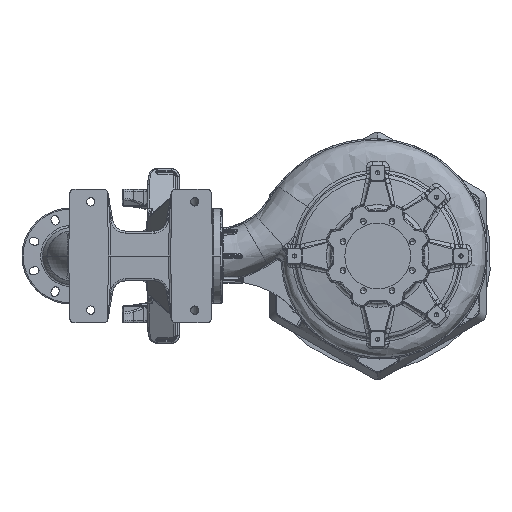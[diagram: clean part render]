
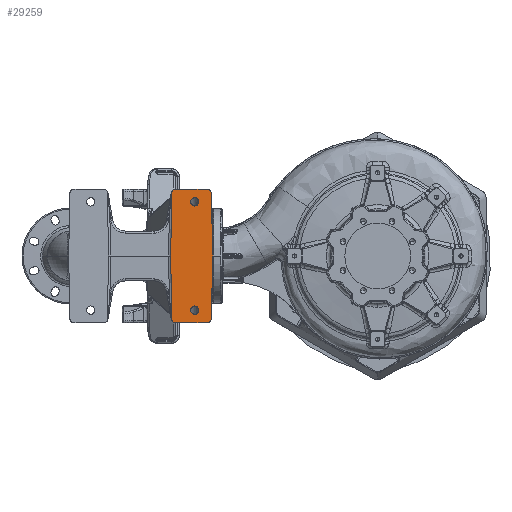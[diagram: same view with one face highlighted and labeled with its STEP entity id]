
A CAD part, front view. The second image highlights one B-rep face of the part: STEP entity #29259.
In plain terms, the highlighted planar face has unit normal (0, -1, 0).
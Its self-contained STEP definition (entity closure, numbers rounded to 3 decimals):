
#2444 = VERTEX_POINT ( 'NONE', #171185 ) ;
#3555 = EDGE_CURVE ( 'NONE', #2444, #217382, #237915, .T. ) ;
#5731 = CARTESIAN_POINT ( 'NONE',  ( -439.5, -572.5, -140. ) ) ;
#7683 = DIRECTION ( 'NONE',  ( 0.017, 0., 1. ) ) ;
#9292 = EDGE_CURVE ( 'NONE', #67527, #254931, #229558, .T. ) ;
#9793 = ORIENTED_EDGE ( 'NONE', *, *, #11243, .T. ) ;
#10259 = LINE ( 'NONE', #275625, #122002 ) ;
#11212 = CARTESIAN_POINT ( 'NONE',  ( -486.109, -572.5, 150. ) ) ;
#11243 = EDGE_CURVE ( 'NONE', #60336, #257726, #217203, .T. ) ;
#11277 = CARTESIAN_POINT ( 'NONE',  ( -409.327, -572.5, -160. ) ) ;
#12725 = CARTESIAN_POINT ( 'NONE',  ( -489.612, -572.5, -153.568 ) ) ;
#13086 = DIRECTION ( 'NONE',  ( 0., -1., 0. ) ) ;
#13527 = DIRECTION ( 'NONE',  ( -1., 0., 0. ) ) ;
#17008 = AXIS2_PLACEMENT_3D ( 'NONE', #199001, #65488, #221469 ) ;
#19281 = EDGE_CURVE ( 'NONE', #45200, #90677, #83656, .T. ) ;
#20380 = EDGE_LOOP ( 'NONE', ( #58994, #210551, #136623, #286247, #231640, #9793, #236796, #233446, #22874, #177484, #32373, #70417 ) ) ;
#22874 = ORIENTED_EDGE ( 'NONE', *, *, #168721, .T. ) ;
#23560 = AXIS2_PLACEMENT_3D ( 'NONE', #80633, #236534, #103006 ) ;
#28393 = CARTESIAN_POINT ( 'NONE',  ( -439.5, -572.5, -130. ) ) ;
#29259 = ADVANCED_FACE ( 'NONE', ( #279421, #70284, #160881 ), #180950, .F. ) ;
#31156 = DIRECTION ( 'NONE',  ( 1., 0., 0. ) ) ;
#32373 = ORIENTED_EDGE ( 'NONE', *, *, #19281, .T. ) ;
#33660 = DIRECTION ( 'NONE',  ( 0., 0., 1. ) ) ;
#34235 = CARTESIAN_POINT ( 'NONE',  ( -439.5, -572.5, -130. ) ) ;
#35191 = DIRECTION ( 'NONE',  ( 0., 0., 1. ) ) ;
#39275 = VECTOR ( 'NONE', #7683, 1000. ) ;
#42751 = EDGE_CURVE ( 'NONE', #254931, #202536, #68276, .T. ) ;
#45200 = VERTEX_POINT ( 'NONE', #110560 ) ;
#46568 = AXIS2_PLACEMENT_3D ( 'NONE', #183496, #50004, #205961 ) ;
#50004 = DIRECTION ( 'NONE',  ( 0., -1., 0. ) ) ;
#50260 = EDGE_CURVE ( 'NONE', #217382, #2444, #267384, .T. ) ;
#50888 = DIRECTION ( 'NONE',  ( 0., 0., -1. ) ) ;
#56760 = DIRECTION ( 'NONE',  ( 0., 0., -1. ) ) ;
#58994 = ORIENTED_EDGE ( 'NONE', *, *, #284434, .T. ) ;
#59357 = CARTESIAN_POINT ( 'NONE',  ( -409.327, -572.5, 160. ) ) ;
#60336 = VERTEX_POINT ( 'NONE', #286744 ) ;
#60824 = CARTESIAN_POINT ( 'NONE',  ( -494.611, -572.5, -153.656 ) ) ;
#62819 = EDGE_CURVE ( 'NONE', #202536, #151445, #218196, .T. ) ;
#65488 = DIRECTION ( 'NONE',  ( 0., -1., 0. ) ) ;
#67527 = VERTEX_POINT ( 'NONE', #60824 ) ;
#68276 = CIRCLE ( 'NONE', #199367, 10. ) ;
#68553 = AXIS2_PLACEMENT_3D ( 'NONE', #146772, #13086, #169196 ) ;
#70049 = AXIS2_PLACEMENT_3D ( 'NONE', #11212, #167348, #33660 ) ;
#70284 = FACE_OUTER_BOUND ( 'NONE', #20380, .T. ) ;
#70417 = ORIENTED_EDGE ( 'NONE', *, *, #239277, .T. ) ;
#74124 = CARTESIAN_POINT ( 'NONE',  ( -409.327, -572.5, 150. ) ) ;
#76689 = CARTESIAN_POINT ( 'NONE',  ( -396.707, -572.5, 0. ) ) ;
#79265 = DIRECTION ( 'NONE',  ( -0.017, 0., -1. ) ) ;
#80633 = CARTESIAN_POINT ( 'NONE',  ( -409.327, -572.5, -150. ) ) ;
#83656 = CIRCLE ( 'NONE', #68553, 5. ) ;
#85410 = LINE ( 'NONE', #147207, #196943 ) ;
#88173 = AXIS2_PLACEMENT_3D ( 'NONE', #119506, #275441, #141932 ) ;
#90677 = VERTEX_POINT ( 'NONE', #258414 ) ;
#96474 = DIRECTION ( 'NONE',  ( 0., 0., 1. ) ) ;
#97521 = CARTESIAN_POINT ( 'NONE',  ( -399.5, -572.5, -160. ) ) ;
#99587 = DIRECTION ( 'NONE',  ( -0.017, 0., 1. ) ) ;
#100538 = AXIS2_PLACEMENT_3D ( 'NONE', #34235, #190271, #56760 ) ;
#100557 = CARTESIAN_POINT ( 'NONE',  ( -396.707, -572.5, 0. ) ) ;
#103006 = DIRECTION ( 'NONE',  ( 0., 0., 1. ) ) ;
#109183 = ORIENTED_EDGE ( 'NONE', *, *, #207628, .F. ) ;
#110560 = CARTESIAN_POINT ( 'NONE',  ( -493.114, -572.5, 157.137 ) ) ;
#110699 = CARTESIAN_POINT ( 'NONE',  ( -486.109, -572.5, 160. ) ) ;
#114498 = CARTESIAN_POINT ( 'NONE',  ( -399.328, -572.5, 150.175 ) ) ;
#118656 = CARTESIAN_POINT ( 'NONE',  ( -497.293, -572.5, 0. ) ) ;
#118902 = CARTESIAN_POINT ( 'NONE',  ( -399.5, -572.5, -160. ) ) ;
#119506 = CARTESIAN_POINT ( 'NONE',  ( -500.086, -572.5, -160. ) ) ;
#119695 = DIRECTION ( 'NONE',  ( 0.017, 0., -1. ) ) ;
#122002 = VECTOR ( 'NONE', #119695, 1000. ) ;
#124389 = DIRECTION ( 'NONE',  ( 0., -1., 0. ) ) ;
#124821 = CIRCLE ( 'NONE', #70049, 10. ) ;
#132548 = LINE ( 'NONE', #212774, #251099 ) ;
#135237 = EDGE_CURVE ( 'NONE', #172162, #261186, #253215, .T. ) ;
#136623 = ORIENTED_EDGE ( 'NONE', *, *, #42751, .T. ) ;
#136694 = CARTESIAN_POINT ( 'NONE',  ( -439.5, -572.5, -120. ) ) ;
#136990 = EDGE_CURVE ( 'NONE', #151445, #60336, #260528, .T. ) ;
#139377 = CARTESIAN_POINT ( 'NONE',  ( -439.5, -572.5, 140. ) ) ;
#141932 = DIRECTION ( 'NONE',  ( 0., 0., 1. ) ) ;
#143222 = ORIENTED_EDGE ( 'NONE', *, *, #135237, .F. ) ;
#146772 = CARTESIAN_POINT ( 'NONE',  ( -489.612, -572.5, 153.568 ) ) ;
#147207 = CARTESIAN_POINT ( 'NONE',  ( -399.5, -572.5, 160. ) ) ;
#151445 = VERTEX_POINT ( 'NONE', #11277 ) ;
#156643 = ORIENTED_EDGE ( 'NONE', *, *, #3555, .F. ) ;
#157060 = CARTESIAN_POINT ( 'NONE',  ( -493.114, -572.5, -157.137 ) ) ;
#157636 = VERTEX_POINT ( 'NONE', #118656 ) ;
#158095 = VERTEX_POINT ( 'NONE', #114498 ) ;
#158909 = VECTOR ( 'NONE', #31156, 1000. ) ;
#158954 = LINE ( 'NONE', #100557, #277487 ) ;
#160881 = FACE_BOUND ( 'NONE', #223873, .T. ) ;
#167348 = DIRECTION ( 'NONE',  ( 0., -1., 0. ) ) ;
#168721 = EDGE_CURVE ( 'NONE', #219420, #210201, #85410, .T. ) ;
#168840 = DIRECTION ( 'NONE',  ( 0., -1., 0. ) ) ;
#169196 = DIRECTION ( 'NONE',  ( 0., 0., 1. ) ) ;
#171185 = CARTESIAN_POINT ( 'NONE',  ( -439.5, -572.5, 120. ) ) ;
#172162 = VERTEX_POINT ( 'NONE', #136694 ) ;
#176357 = CARTESIAN_POINT ( 'NONE',  ( -486.109, -572.5, -160. ) ) ;
#177484 = ORIENTED_EDGE ( 'NONE', *, *, #185928, .T. ) ;
#180950 = PLANE ( 'NONE',  #88173 ) ;
#183496 = CARTESIAN_POINT ( 'NONE',  ( -439.5, -572.5, 130. ) ) ;
#184412 = DIRECTION ( 'NONE',  ( 0., -1., 0. ) ) ;
#185928 = EDGE_CURVE ( 'NONE', #210201, #45200, #124821, .T. ) ;
#188218 = AXIS2_PLACEMENT_3D ( 'NONE', #74124, #230089, #96474 ) ;
#190271 = DIRECTION ( 'NONE',  ( 0., -1., 0. ) ) ;
#196943 = VECTOR ( 'NONE', #13527, 1000. ) ;
#197264 = AXIS2_PLACEMENT_3D ( 'NONE', #28393, #184412, #50888 ) ;
#199001 = CARTESIAN_POINT ( 'NONE',  ( -439.5, -572.5, 130. ) ) ;
#199367 = AXIS2_PLACEMENT_3D ( 'NONE', #257909, #124389, #280320 ) ;
#202536 = VERTEX_POINT ( 'NONE', #176357 ) ;
#204705 = CIRCLE ( 'NONE', #100538, 10. ) ;
#205961 = DIRECTION ( 'NONE',  ( 0., 0., -1. ) ) ;
#207628 = EDGE_CURVE ( 'NONE', #261186, #172162, #204705, .T. ) ;
#209139 = EDGE_CURVE ( 'NONE', #257726, #158095, #158954, .T. ) ;
#210201 = VERTEX_POINT ( 'NONE', #110699 ) ;
#210551 = ORIENTED_EDGE ( 'NONE', *, *, #9292, .T. ) ;
#212774 = CARTESIAN_POINT ( 'NONE',  ( -494.5, -572.5, 160. ) ) ;
#217203 = LINE ( 'NONE', #118902, #39275 ) ;
#217382 = VERTEX_POINT ( 'NONE', #139377 ) ;
#218196 = LINE ( 'NONE', #97521, #158909 ) ;
#219420 = VERTEX_POINT ( 'NONE', #59357 ) ;
#221469 = DIRECTION ( 'NONE',  ( 0., 0., -1. ) ) ;
#223873 = EDGE_LOOP ( 'NONE', ( #156643, #254247 ) ) ;
#227588 = EDGE_CURVE ( 'NONE', #158095, #219420, #230672, .T. ) ;
#229558 = CIRCLE ( 'NONE', #259643, 5. ) ;
#230089 = DIRECTION ( 'NONE',  ( 0., -1., 0. ) ) ;
#230672 = CIRCLE ( 'NONE', #188218, 10. ) ;
#231640 = ORIENTED_EDGE ( 'NONE', *, *, #136990, .T. ) ;
#233446 = ORIENTED_EDGE ( 'NONE', *, *, #227588, .T. ) ;
#236534 = DIRECTION ( 'NONE',  ( 0., -1., 0. ) ) ;
#236796 = ORIENTED_EDGE ( 'NONE', *, *, #209139, .T. ) ;
#237915 = CIRCLE ( 'NONE', #17008, 10. ) ;
#239277 = EDGE_CURVE ( 'NONE', #90677, #157636, #132548, .T. ) ;
#251099 = VECTOR ( 'NONE', #79265, 1000. ) ;
#251783 = EDGE_LOOP ( 'NONE', ( #109183, #143222 ) ) ;
#253215 = CIRCLE ( 'NONE', #197264, 10. ) ;
#254247 = ORIENTED_EDGE ( 'NONE', *, *, #50260, .F. ) ;
#254931 = VERTEX_POINT ( 'NONE', #157060 ) ;
#257726 = VERTEX_POINT ( 'NONE', #76689 ) ;
#257909 = CARTESIAN_POINT ( 'NONE',  ( -486.109, -572.5, -150. ) ) ;
#258414 = CARTESIAN_POINT ( 'NONE',  ( -494.611, -572.5, 153.656 ) ) ;
#259643 = AXIS2_PLACEMENT_3D ( 'NONE', #12725, #168840, #35191 ) ;
#260528 = CIRCLE ( 'NONE', #23560, 10. ) ;
#261186 = VERTEX_POINT ( 'NONE', #5731 ) ;
#267384 = CIRCLE ( 'NONE', #46568, 10. ) ;
#275441 = DIRECTION ( 'NONE',  ( 0., 1., 0. ) ) ;
#275625 = CARTESIAN_POINT ( 'NONE',  ( -494.5, -572.5, -160. ) ) ;
#277487 = VECTOR ( 'NONE', #99587, 1000. ) ;
#279421 = FACE_BOUND ( 'NONE', #251783, .T. ) ;
#280320 = DIRECTION ( 'NONE',  ( 0., 0., 1. ) ) ;
#284434 = EDGE_CURVE ( 'NONE', #157636, #67527, #10259, .T. ) ;
#286247 = ORIENTED_EDGE ( 'NONE', *, *, #62819, .T. ) ;
#286744 = CARTESIAN_POINT ( 'NONE',  ( -399.328, -572.5, -150.175 ) ) ;
